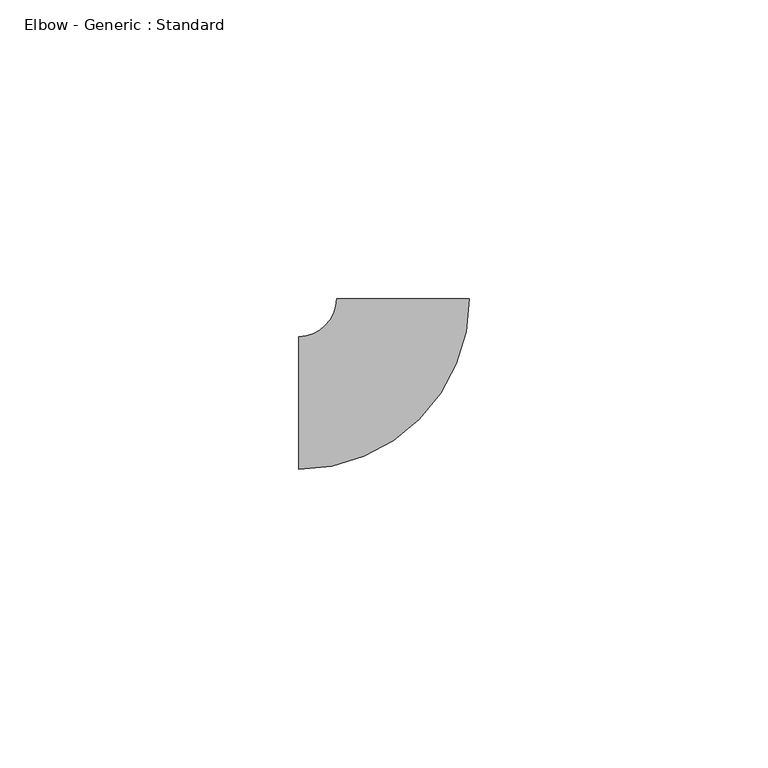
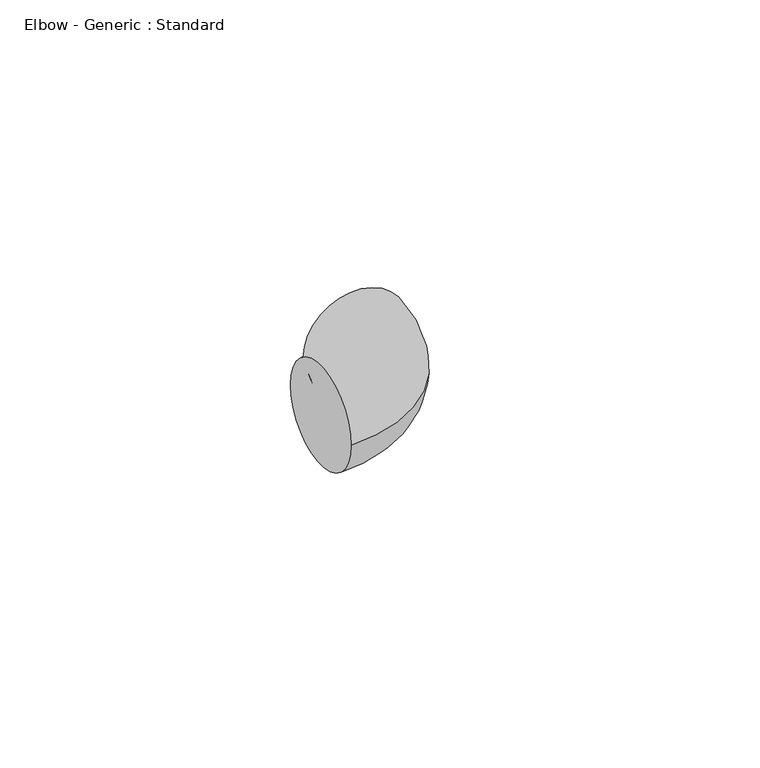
"""IFC4 building model written with IfcOpenShell, lengths in millimetres: pipe fitting geometry, Elbow - Generic : Standard."""

from ifc_helpers import new_model, si_unit, point, frame, origin, place, context, project, spatial, circle_curve, ellipse_curve, trimmed, source, transform, mapped, element, save
from ifc_brep_helpers import plane_surface, revolved_surface, advanced_brep


def elbow_generic_standard_c5dfc7a5(model_context):
    return source(origin(), model_context, "Body", "AdvancedBrep", [
        advanced_brep(
        [(-17.4655895, -11.1125, 0.0), (-17.4655895, 11.1125, 0.0), (11.10941, 17.4675551, 0.0), (-11.1155896, 17.4636234, 0.0)],
        [
            (0, 1, circle_curve(frame((-17.4655895, 0.0, 0.0), z_axis=(-1.0, 0.0, 0.0), x_axis=(0.0, 1.0, 0.0)), 11.1125)),
            (1, 0, circle_curve(frame((-17.4655895, 0.0, 0.0), z_axis=(-1.0, 0.0, 0.0), x_axis=(0.0, 1.0, 0.0)), 11.1125)),
            (2, 3, circle_curve(frame((-0.0030898, 17.4655893, 0.0), z_axis=(-0.00017690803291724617, 0.9999999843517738, 0.0), x_axis=(-0.9999999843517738, -0.00017690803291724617, 0.0)), 11.1125)),
            (3, 2, circle_curve(frame((-0.0030898, 17.4655893, 0.0), z_axis=(-0.00017690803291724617, 0.9999999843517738, 0.0), x_axis=(-0.9999999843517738, -0.00017690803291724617, 0.0)), 11.1125)),
            (3, 1, circle_curve(frame((-17.4655895, 17.4625, 0.0), z_axis=(0.0, 0.0, -1.0), x_axis=(0.0, -1.0, 0.0)), 6.35)),
            (0, 2, circle_curve(frame((-17.4655895, 17.4625, 0.0), z_axis=(0.0, 0.0, 1.0), x_axis=(0.0, -1.0, 0.0)), 28.575)),
        ],
        [
            plane_surface(frame((-17.4655895, 0.0, 0.0), z_axis=(-1.0, 0.0, 0.0), x_axis=(0.0, 0.0, 1.0))),
            plane_surface(frame((-0.0030898, 17.4655893, 0.0), z_axis=(-0.00017690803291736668, 0.999999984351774, 0.0), x_axis=(0.0, 0.0, 1.0))),
            revolved_surface(trimmed(ellipse_curve(frame((-17.4655895, 0.0, 0.0), z_axis=(-1.0, 0.0, 0.0), x_axis=(0.0, 1.0, 0.0)), 11.1125, 11.1125), [point((-17.4655895, -11.1125, 0.0))], [point((-17.4655895, 11.1125, 0.0))], True, "CARTESIAN"), (-17.4655895, 17.4625, 0.0), (0.0, 0.0, 1.0)),
            revolved_surface(trimmed(ellipse_curve(frame((-17.4655895, 0.0, 0.0), z_axis=(-1.0, 0.0, 0.0), x_axis=(0.0, 1.0, 0.0)), 11.1125, 11.1125), [point((-17.4655895, 11.1125, 0.0))], [point((-17.4655895, -11.1125, 0.0))], True, "CARTESIAN"), (-17.4655895, 17.4625, 0.0), (0.0, 0.0, 1.0)),
        ],
        [
            (0, [[1, 2]]),
            (1, [[3, 4]]),
            (2, [[5, -1, 6, -4]]),
            (3, [[-6, -2, -5, -3]]),
        ],
    ),
    ])


if __name__ == "__main__":
    model = new_model("IFC4")
    model_context = context("Model", 3, world=origin())
    ifc_project = project(units=[si_unit("LENGTHUNIT", "METRE", prefix="MILLI")], contexts=[model_context])
    site = spatial("IfcSite", under=ifc_project)
    building = spatial("IfcBuilding", under=site)
    placement = place(None, origin())
    elbow_generic_standard_shape = elbow_generic_standard_c5dfc7a5(model_context)
    element("IfcPipeFitting", 1, ObjectType="Elbow - Generic : Standard", at=placement, inside=building, context=model_context, shape_type="MappedRepresentation", body=[
        mapped(elbow_generic_standard_shape, transform((0.0, 0.0, 0.0), x_axis=(1.0, 0.0, 0.0), y_axis=(0.0, 1.0, 0.0), z_axis=(0.0, 0.0, 1.0))),
    ])
    save(model, "model.ifc")
